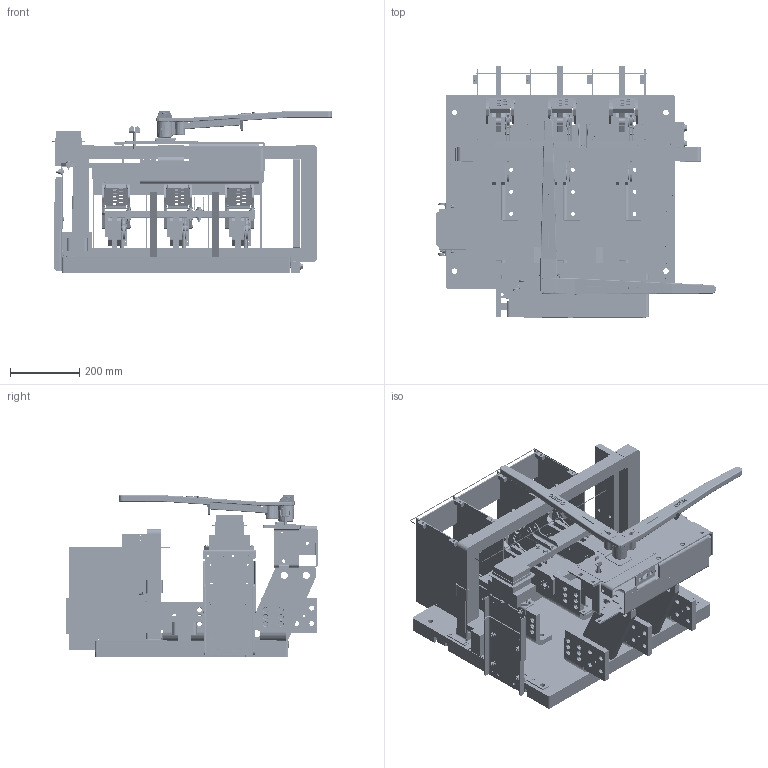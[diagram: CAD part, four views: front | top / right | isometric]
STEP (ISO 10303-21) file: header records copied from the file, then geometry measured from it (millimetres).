
FILE_DESCRIPTION(/* description */ (''),/* implementation_level */ '2;1');
FILE_NAME(/* name */ 'H:\switches\3d-templates\catalog-switches-iges-files\CATALOG-VL3611G5.stp',/* time_stamp */ '2022-03-23T15:09:50-05:00',/* author */ ('MKingston'),/* organization */ (''),/* preprocessor_version */ 'ST-DEVELOPER v18.1',/* originating_system */ 'Autodesk Inventor 2022',/* authorisation */ '');
FILE_SCHEMA (('AUTOMOTIVE_DESIGN { 1 0 10303 214 3 1 1 }'));
Products named in the file (74): CATALOG-VL3611; 277; 670-D; 670-c; 670-E; CATALOG-2500amp-blade-assy; 67-fc3; 69-gc3; 670-AR; 670-AL; 70-M; 67-H; 67-j; ANSI/ASME B18.7 - T 0.252 x 17/32; ANSI/ASME B18.7 - T 0.188 x 17/32; 235-b; 230-a; CATALOG-58-qd-arc-chute-assy; 50-ql; 50-qr; 363-a; 363-b; 58-QG; ANSI B18.6.3 - No. 8 - 32 - 5/8; ANSI B18.6.3 - No. 8 - 32 - 1/2; ANSI B18.6.3 - No. 8 - 32 - 3; 255-z; 246-a; 255-bha; 255-c; 178-c; 178-b; 675-ba; 675-ff; 221-kpa; 452; 481-a; gfi-ring-assembly; GFS10X24; 277-ma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
Assembly tree (166 placements, depth 4):
  CATALOG-VL3611
    277
    670-D  x3
    670-c  x3
    670-E  x3
    CATALOG-2500amp-blade-assy  x3
      67-fc3
      69-gc3
      67-j
      670-AR
      670-AL
      70-M
      67-H
      ANSI/ASME B18.7 - T 0.252 x 17/32
      ANSI/ASME B18.7 - T 0.188 x 17/32
    235-b
    230-a
    CATALOG-58-qd-arc-chute-assy  x3
      50-ql
      50-qr
      363-a
      363-b
      58-QG
      ANSI B18.6.3 - No. 8 - 32 - 5/8
      ANSI B18.6.3 - No. 8 - 32 - 1/2
      ANSI B18.6.3 - No. 8 - 32 - 3
    255-bha  x4
    255-z
    246-a  x2
    255-c
    178-c  x8
    178-b  x8
    675-ba
    675-ff
    221-kpa
    452
    481-a
    gfi-ring-assembly
      GFS10X24
      277-ma
    gfr-1-mounting-assembly
      277-L1T
      277-l2
      277-l3
      277-l4
      gfr-1
      Bolted Connection
        ANSI B18.22.1 - No. 10 - Type A  x4
        ASME B18.21.1 - No. 10. Carbon Steel, ETLWTB(1)  x4
        ANSI B18.6.3 - 10 - 32 x 7/8 SR HMS  x2
        ANSI B18.2.2 - 10 - 32, HMSNI  x2
      Bolted Connection_1
        ANSI B18.5 - 1/4-20 UNC - 0.75, RHBI  x6
        ASTM F436 - 1/4, CW  x6
        ASME B18.21.1 - 1/4. Carbon Steel, HITLWTB(1)  x6
        ANSI B18.2.2 - 1/4 - 20, HNI  x6
    transformer
    800-bck2
    800-fck-1
    672-ha
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Bounding box: 807.1 x 725.27 x 466.29 mm (x, y, z)
Volume: 21828607.4 mm3; surface area: 4643930.5 mm2
Topology: 212 solids, 213 shells, 7111 faces, 18033 edges, 11659 vertices
Faces by surface type: plane 3451, cylinder 2350, cone 942, torus 183, bspline 150, sphere 35
Full cylindrical faces by diameter (mm): 1.702 x8, 3.175 x4, 3.302 x26, 3.581 x2, 3.683 x8, 3.962 x11, 4.089 x4, 4.166 x15, 4.366 x2, 4.496 x24, 4.653 x4, 4.762 x46, 4.775 x11, 4.801 x8, 4.826 x2, 4.902 x14, 4.915 x24, 4.953 x4, 4.978 x17, 5.462 x4, 5.537 x3, 5.556 x5, 5.563 x4, 5.791 x6, 6.35 x22, 6.401 x9, 6.528 x50, 6.604 x8, 7.137 x18, 7.144 x20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
Entity records: 120589 total; most frequent: CARTESIAN_POINT 29971, DIRECTION 18567, ORIENTED_EDGE 17884, EDGE_CURVE 8950, AXIS2_PLACEMENT_3D 6708, VERTEX_POINT 5786, LINE 5151, VECTOR 5151
